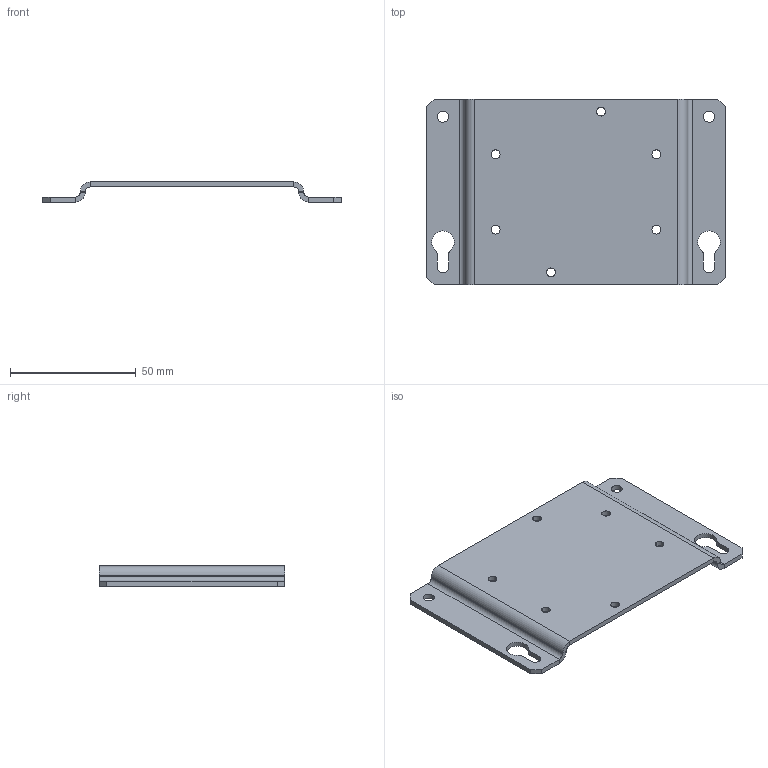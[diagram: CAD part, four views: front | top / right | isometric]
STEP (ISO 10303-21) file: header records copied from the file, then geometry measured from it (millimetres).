
FILE_DESCRIPTION((''),'2;1');
FILE_NAME('1391619','2014-01-23T',('smar'),('Sierra Wireless'),'PRO/ENGINEER BY PARAMETRIC TECHNOLOGY CORPORATION, 2013130','PRO/ENGINEER BY PARAMETRIC TECHNOLOGY CORPORATION, 2013130','');
FILE_SCHEMA(('AUTOMOTIVE_DESIGN { 1 0 10303 214 1 1 1 1 }'));
Length unit declared in the file: millimetre
Products named in the file (1): 1391619
Bounding box: 119 x 74 x 8 mm (x, y, z)
Volume: 18046.2 mm3; surface area: 19190.8 mm2
Topology: 1 solids, 1 shells, 70 faces, 172 edges, 104 vertices
Faces by surface type: plane 38, cylinder 32
Entity records: 2902 total; most frequent: DIRECTION 376, CARTESIAN_POINT 348, ORIENTED_EDGE 344, PRESENTATION_STYLE_ASSIGNMENT 173, STYLED_ITEM 173, CURVE_STYLE 172, EDGE_CURVE 172, AXIS2_PLACEMENT_3D 134
